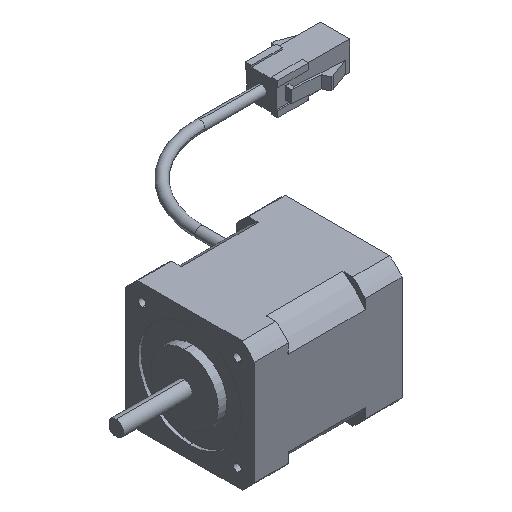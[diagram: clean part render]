
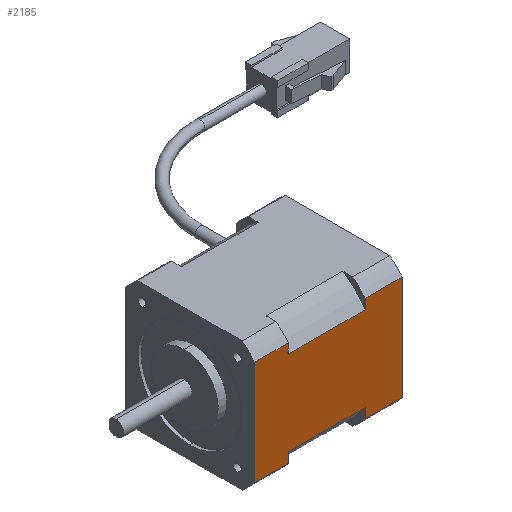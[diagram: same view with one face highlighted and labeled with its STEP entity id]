
A CAD part, isometric view. The second image highlights one B-rep face of the part: STEP entity #2185.
In plain terms, the highlighted planar face has unit normal (0, -1, 0).
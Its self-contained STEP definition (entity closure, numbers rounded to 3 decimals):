
#27 = CARTESIAN_POINT ( 'NONE',  ( 37.971, 0., 48. ) ) ;
#229 = LINE ( 'NONE', #3575, #1860 ) ;
#233 = VERTEX_POINT ( 'NONE', #2647 ) ;
#287 = CARTESIAN_POINT ( 'NONE',  ( 4.029, 0., 37. ) ) ;
#336 = VERTEX_POINT ( 'NONE', #1470 ) ;
#364 = DIRECTION ( 'NONE',  ( 1., 0., 0. ) ) ;
#625 = CARTESIAN_POINT ( 'NONE',  ( 37.971, 0., 37. ) ) ;
#799 = CARTESIAN_POINT ( 'NONE',  ( 34.766, 0., 12. ) ) ;
#933 = DIRECTION ( 'NONE',  ( 0., 0., -1. ) ) ;
#993 = LINE ( 'NONE', #799, #2412 ) ;
#1188 = VECTOR ( 'NONE', #1204, 1000. ) ;
#1191 = VECTOR ( 'NONE', #4375, 1000. ) ;
#1204 = DIRECTION ( 'NONE',  ( 1., 0., 0. ) ) ;
#1234 = ORIENTED_EDGE ( 'NONE', *, *, #1579, .T. ) ;
#1321 = DIRECTION ( 'NONE',  ( 1., 0., 0. ) ) ;
#1329 = CARTESIAN_POINT ( 'NONE',  ( 4.029, 0., 12. ) ) ;
#1425 = EDGE_CURVE ( 'NONE', #4252, #4462, #229, .T. ) ;
#1434 = EDGE_CURVE ( 'NONE', #4252, #4055, #4762, .T. ) ;
#1437 = CARTESIAN_POINT ( 'NONE',  ( 37.971, 0., 0. ) ) ;
#1445 = ORIENTED_EDGE ( 'NONE', *, *, #2042, .F. ) ;
#1470 = CARTESIAN_POINT ( 'NONE',  ( 34.766, 0., 12. ) ) ;
#1514 = ORIENTED_EDGE ( 'NONE', *, *, #1630, .F. ) ;
#1529 = CARTESIAN_POINT ( 'NONE',  ( 4.029, 0., 48. ) ) ;
#1550 = ORIENTED_EDGE ( 'NONE', *, *, #1727, .F. ) ;
#1572 = ORIENTED_EDGE ( 'NONE', *, *, #1835, .T. ) ;
#1579 = EDGE_CURVE ( 'NONE', #4055, #6125, #5385, .T. ) ;
#1594 = CARTESIAN_POINT ( 'NONE',  ( 4.029, 0., 37. ) ) ;
#1630 = EDGE_CURVE ( 'NONE', #3272, #6125, #5205, .T. ) ;
#1673 = VECTOR ( 'NONE', #3568, 1000. ) ;
#1727 = EDGE_CURVE ( 'NONE', #336, #3272, #4296, .T. ) ;
#1775 = CARTESIAN_POINT ( 'NONE',  ( 37.971, 0., 48. ) ) ;
#1783 = EDGE_CURVE ( 'NONE', #233, #336, #993, .T. ) ;
#1835 = EDGE_CURVE ( 'NONE', #233, #3771, #2534, .T. ) ;
#1860 = VECTOR ( 'NONE', #3678, 1000. ) ;
#1895 = EDGE_CURVE ( 'NONE', #7135, #3771, #2136, .T. ) ;
#2042 = EDGE_CURVE ( 'NONE', #4748, #7135, #2965, .T. ) ;
#2089 = EDGE_CURVE ( 'NONE', #4748, #2736, #6925, .T. ) ;
#2102 = DIRECTION ( 'NONE',  ( 0., 0., -1. ) ) ;
#2132 = EDGE_CURVE ( 'NONE', #2736, #6531, #5112, .T. ) ;
#2136 = LINE ( 'NONE', #27, #5208 ) ;
#2138 = CARTESIAN_POINT ( 'NONE',  ( 4.029, 0., 0. ) ) ;
#2166 = CARTESIAN_POINT ( 'NONE',  ( 37.971, 0., 48. ) ) ;
#2185 = ADVANCED_FACE ( 'NONE', ( #4752 ), #7468, .F. ) ;
#2198 = CARTESIAN_POINT ( 'NONE',  ( 4.029, 0., 37. ) ) ;
#2246 = EDGE_CURVE ( 'NONE', #4462, #6531, #4572, .T. ) ;
#2258 = CARTESIAN_POINT ( 'NONE',  ( 7.234, 0., 37. ) ) ;
#2388 = CARTESIAN_POINT ( 'NONE',  ( 37.971, 0., 12. ) ) ;
#2412 = VECTOR ( 'NONE', #933, 1000. ) ;
#2534 = LINE ( 'NONE', #287, #6852 ) ;
#2605 = CARTESIAN_POINT ( 'NONE',  ( 4.029, 0., 0. ) ) ;
#2647 = CARTESIAN_POINT ( 'NONE',  ( 34.766, 0., 37. ) ) ;
#2708 = DIRECTION ( 'NONE',  ( 1., 0., 0. ) ) ;
#2736 = VERTEX_POINT ( 'NONE', #2198 ) ;
#2759 = CARTESIAN_POINT ( 'NONE',  ( 7.234, 0., 12. ) ) ;
#2879 = VECTOR ( 'NONE', #7078, 1000. ) ;
#2965 = LINE ( 'NONE', #4076, #1191 ) ;
#3191 = ORIENTED_EDGE ( 'NONE', *, *, #1425, .F. ) ;
#3272 = VERTEX_POINT ( 'NONE', #2388 ) ;
#3290 = CARTESIAN_POINT ( 'NONE',  ( 4.029, 0., 48. ) ) ;
#3385 = AXIS2_PLACEMENT_3D ( 'NONE', #7430, #7418, #7410 ) ;
#3461 = DIRECTION ( 'NONE',  ( 0., 0., -1. ) ) ;
#3531 = CARTESIAN_POINT ( 'NONE',  ( 4.029, 0., 48. ) ) ;
#3568 = DIRECTION ( 'NONE',  ( 0., 0., -1. ) ) ;
#3575 = CARTESIAN_POINT ( 'NONE',  ( 4.029, 0., 12. ) ) ;
#3597 = VECTOR ( 'NONE', #1321, 1000. ) ;
#3678 = DIRECTION ( 'NONE',  ( 1., 0., 0. ) ) ;
#3771 = VERTEX_POINT ( 'NONE', #625 ) ;
#3947 = ORIENTED_EDGE ( 'NONE', *, *, #2132, .T. ) ;
#4055 = VERTEX_POINT ( 'NONE', #2138 ) ;
#4076 = CARTESIAN_POINT ( 'NONE',  ( 4.029, 0., 48. ) ) ;
#4252 = VERTEX_POINT ( 'NONE', #5541 ) ;
#4296 = LINE ( 'NONE', #1329, #1188 ) ;
#4375 = DIRECTION ( 'NONE',  ( 1., 0., 0. ) ) ;
#4462 = VERTEX_POINT ( 'NONE', #2759 ) ;
#4572 = LINE ( 'NONE', #7205, #2879 ) ;
#4748 = VERTEX_POINT ( 'NONE', #1529 ) ;
#4752 = FACE_OUTER_BOUND ( 'NONE', #4870, .T. ) ;
#4762 = LINE ( 'NONE', #3531, #1673 ) ;
#4870 = EDGE_LOOP ( 'NONE', ( #3191, #5475, #1234, #1514, #1550, #6749, #1572, #6029, #1445, #6712, #3947, #6603 ) ) ;
#5026 = VECTOR ( 'NONE', #2102, 1000. ) ;
#5112 = LINE ( 'NONE', #1594, #3597 ) ;
#5205 = LINE ( 'NONE', #2166, #5026 ) ;
#5208 = VECTOR ( 'NONE', #7062, 1000. ) ;
#5385 = LINE ( 'NONE', #2605, #6673 ) ;
#5475 = ORIENTED_EDGE ( 'NONE', *, *, #1434, .T. ) ;
#5541 = CARTESIAN_POINT ( 'NONE',  ( 4.029, 0., 12. ) ) ;
#5647 = VECTOR ( 'NONE', #3461, 1000. ) ;
#6029 = ORIENTED_EDGE ( 'NONE', *, *, #1895, .F. ) ;
#6125 = VERTEX_POINT ( 'NONE', #1437 ) ;
#6531 = VERTEX_POINT ( 'NONE', #2258 ) ;
#6603 = ORIENTED_EDGE ( 'NONE', *, *, #2246, .F. ) ;
#6673 = VECTOR ( 'NONE', #2708, 1000. ) ;
#6712 = ORIENTED_EDGE ( 'NONE', *, *, #2089, .T. ) ;
#6749 = ORIENTED_EDGE ( 'NONE', *, *, #1783, .F. ) ;
#6852 = VECTOR ( 'NONE', #364, 1000. ) ;
#6925 = LINE ( 'NONE', #3290, #5647 ) ;
#7062 = DIRECTION ( 'NONE',  ( 0., 0., -1. ) ) ;
#7078 = DIRECTION ( 'NONE',  ( 0., 0., 1. ) ) ;
#7135 = VERTEX_POINT ( 'NONE', #1775 ) ;
#7205 = CARTESIAN_POINT ( 'NONE',  ( 7.234, 0., 12. ) ) ;
#7410 = DIRECTION ( 'NONE',  ( -1., 0., 0. ) ) ;
#7418 = DIRECTION ( 'NONE',  ( 0., 1., 0. ) ) ;
#7430 = CARTESIAN_POINT ( 'NONE',  ( 4.029, 0., 48. ) ) ;
#7468 = PLANE ( 'NONE',  #3385 ) ;
